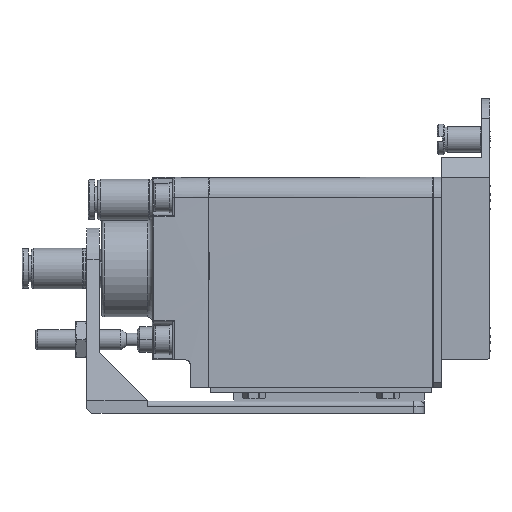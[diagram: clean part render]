
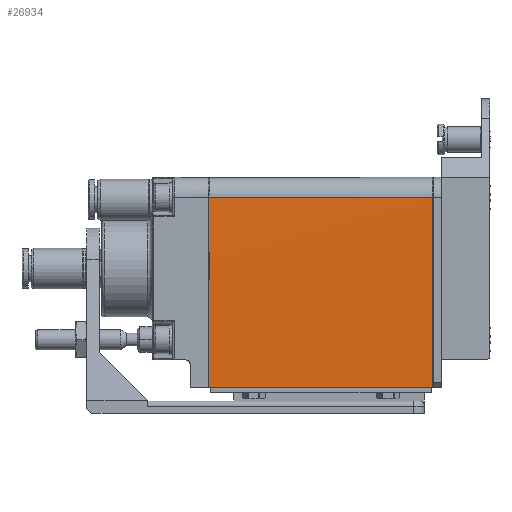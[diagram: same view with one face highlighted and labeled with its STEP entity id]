
A CAD part, left-side view. The second image highlights one B-rep face of the part: STEP entity #26934.
In plain terms, the highlighted planar face has unit normal (-1, 0, 0).
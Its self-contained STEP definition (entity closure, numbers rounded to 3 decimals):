
#3249 = CARTESIAN_POINT ( 'NONE',  ( -14., 44.3, -4.75 ) ) ;
#3997 = DIRECTION ( 'NONE',  ( 0., 0., -1. ) ) ;
#4495 = PLANE ( 'NONE',  #22151 ) ;
#4518 = ORIENTED_EDGE ( 'NONE', *, *, #9045, .T. ) ;
#4760 = DIRECTION ( 'NONE',  ( -1., 0., 0. ) ) ;
#5198 = EDGE_LOOP ( 'NONE', ( #17804, #16535, #4518, #31982 ) ) ;
#5505 = LINE ( 'NONE', #3249, #36072 ) ;
#8306 = CARTESIAN_POINT ( 'NONE',  ( -14., 22.25, 14. ) ) ;
#8871 = VERTEX_POINT ( 'NONE', #19485 ) ;
#9045 = EDGE_CURVE ( 'NONE', #26010, #20874, #5505, .T. ) ;
#9305 = FACE_OUTER_BOUND ( 'NONE', #5198, .T. ) ;
#14971 = VECTOR ( 'NONE', #37955, 1000. ) ;
#15502 = CARTESIAN_POINT ( 'NONE',  ( -14., 22.25, -23.5 ) ) ;
#16039 = CARTESIAN_POINT ( 'NONE',  ( -13.933, 44.433, -23.5 ) ) ;
#16535 = ORIENTED_EDGE ( 'NONE', *, *, #31282, .T. ) ;
#17390 = DIRECTION ( 'NONE',  ( 0., 0., 1. ) ) ;
#17804 = ORIENTED_EDGE ( 'NONE', *, *, #18674, .T. ) ;
#18674 = EDGE_CURVE ( 'NONE', #8871, #32256, #35893, .T. ) ;
#19485 = CARTESIAN_POINT ( 'NONE',  ( -14., 0.2, -23.5 ) ) ;
#20874 = VERTEX_POINT ( 'NONE', #16039 ) ;
#22151 = AXIS2_PLACEMENT_3D ( 'NONE', #22522, #4760, #25454 ) ;
#22522 = CARTESIAN_POINT ( 'NONE',  ( -14., -4.21, -27.25 ) ) ;
#25454 = DIRECTION ( 'NONE',  ( 0., 0., 1. ) ) ;
#25493 = LINE ( 'NONE', #15502, #26404 ) ;
#26010 = VERTEX_POINT ( 'NONE', #31978 ) ;
#26404 = VECTOR ( 'NONE', #30135, 1000. ) ;
#26934 = ADVANCED_FACE ( 'NONE', ( #9305 ), #4495, .T. ) ;
#27091 = VECTOR ( 'NONE', #17390, 1000. ) ;
#27701 = EDGE_CURVE ( 'NONE', #8871, #20874, #25493, .T. ) ;
#30135 = DIRECTION ( 'NONE',  ( 0., 1., 0. ) ) ;
#30608 = LINE ( 'NONE', #8306, #14971 ) ;
#31282 = EDGE_CURVE ( 'NONE', #32256, #26010, #30608, .T. ) ;
#31934 = CARTESIAN_POINT ( 'NONE',  ( -14., 0.2, 14. ) ) ;
#31978 = CARTESIAN_POINT ( 'NONE',  ( -13.95, 44.425, 14. ) ) ;
#31982 = ORIENTED_EDGE ( 'NONE', *, *, #27701, .F. ) ;
#32256 = VERTEX_POINT ( 'NONE', #31934 ) ;
#35048 = CARTESIAN_POINT ( 'NONE',  ( -14., 0.2, -4.75 ) ) ;
#35893 = LINE ( 'NONE', #35048, #27091 ) ;
#36072 = VECTOR ( 'NONE', #3997, 1000. ) ;
#37955 = DIRECTION ( 'NONE',  ( 0., 1., 0. ) ) ;
